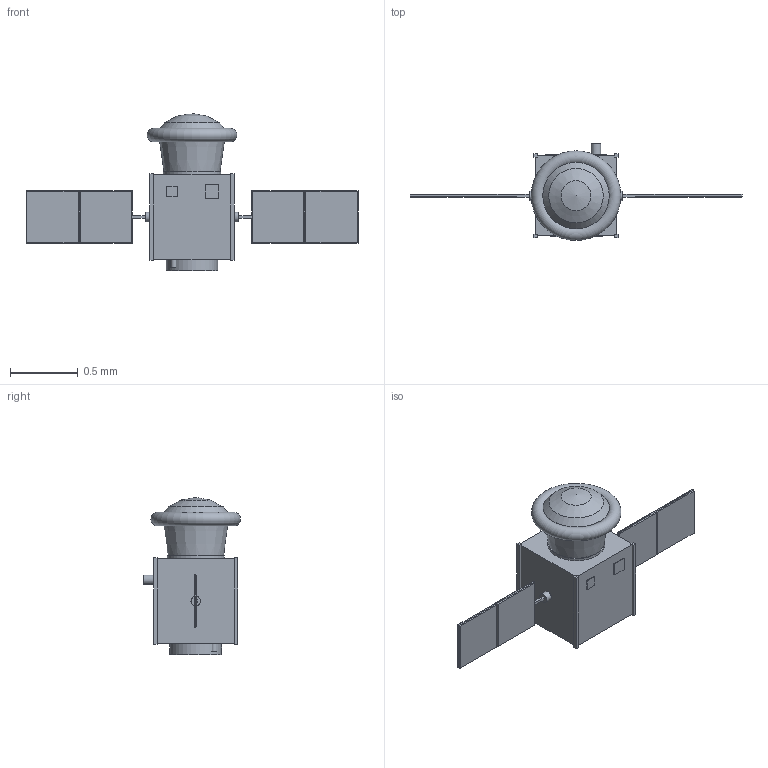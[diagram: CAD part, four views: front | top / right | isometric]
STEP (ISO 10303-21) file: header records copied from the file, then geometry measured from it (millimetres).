
FILE_DESCRIPTION(('Open CASCADE Model'),'2;1');
FILE_NAME('Open CASCADE Shape Model','2026-10-04T13:15:41',('Author'),( 'Open CASCADE'),'Open CASCADE STEP processor 7.9','Open CASCADE 7.9' ,'Unknown');
FILE_SCHEMA(('AUTOMOTIVE_DESIGN { 1 0 10303 214 1 1 1 1 }'));
Length unit declared in the file: millimetre
Products named in the file (46): SP-CHIP; capsule_backshell; nose; heat_shield_packed; sample_drawer; sample_cassette_1; sample_cassette_2; sample_cassette_3; optical_window; capsule_avionics_and_hold_battery; parachute_canister; recovery_beacon; separation_interface; service_module_structure; corner_rail_-X-Y; corner_rail_-X+Y; corner_rail_+X-Y; corner_rail_+X+Y; radiator_+Y_face; experiment_instruments_microscope_pumps_reservoirs; propellant_tank_LMP-103S; battery; on-board_computer_and_radios; reaction_wheel_1; reaction_wheel_2; reaction_wheel_3; magnetorquer_1; magnetorquer_2; star_tracker; S-band_antenna; X-band_antenna; 22_N_thruster_1; 22_N_thruster_2; launch_separation_ring; array_drive_-X; yoke_-X; solar_panel_-X1; panel_frame_-X1; solar_panel_-X2; panel_frame_-X2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
Assembly tree (45 placements, depth 2):
  SP-CHIP
    capsule_backshell
    nose
    heat_shield_packed
    sample_drawer
    sample_cassette_1
    sample_cassette_2
    sample_cassette_3
    optical_window
    capsule_avionics_and_hold_battery
    parachute_canister
    recovery_beacon
    separation_interface
    service_module_structure
    corner_rail_-X-Y
    corner_rail_-X+Y
    corner_rail_+X-Y
    corner_rail_+X+Y
    radiator_+Y_face
    experiment_instruments_microscope_pumps_reservoirs
    propellant_tank_LMP-103S
    battery
    on-board_computer_and_radios
    reaction_wheel_1
    reaction_wheel_2
    reaction_wheel_3
    magnetorquer_1
    magnetorquer_2
    star_tracker
    S-band_antenna
    X-band_antenna
    22_N_thruster_1
    22_N_thruster_2
    launch_separation_ring
    array_drive_-X
    yoke_-X
    solar_panel_-X1
    panel_frame_-X1
    solar_panel_-X2
    panel_frame_-X2
    array_drive_+X
    yoke_+X
    solar_panel_+X1
    panel_frame_+X1
    solar_panel_+X2
    panel_frame_+X2
Bounding box: 2.45 x 0.72 x 1.16 mm (x, y, z)
Volume: 0.4 mm3; surface area: 9.2 mm2
Topology: 45 solids, 45 shells, 215 faces, 386 edges, 256 vertices
Faces by surface type: plane 193, cylinder 16, cone 4, torus 1, sphere 1
Full cylindrical faces by diameter (mm): 0.024 x2, 0.04 x1, 0.045 x2, 0.07 x3, 0.09 x3, 0.14 x1, 0.341 x1, 0.381 x1, 0.423 x1, 0.491 x1
Entity records: 11207 total; most frequent: DIRECTION 1706, CARTESIAN_POINT 1662, LINE 1075, VECTOR 1075, ORIENTED_EDGE 764, PCURVE 764, DEFINITIONAL_REPRESENTATION 764, EDGE_CURVE 382
